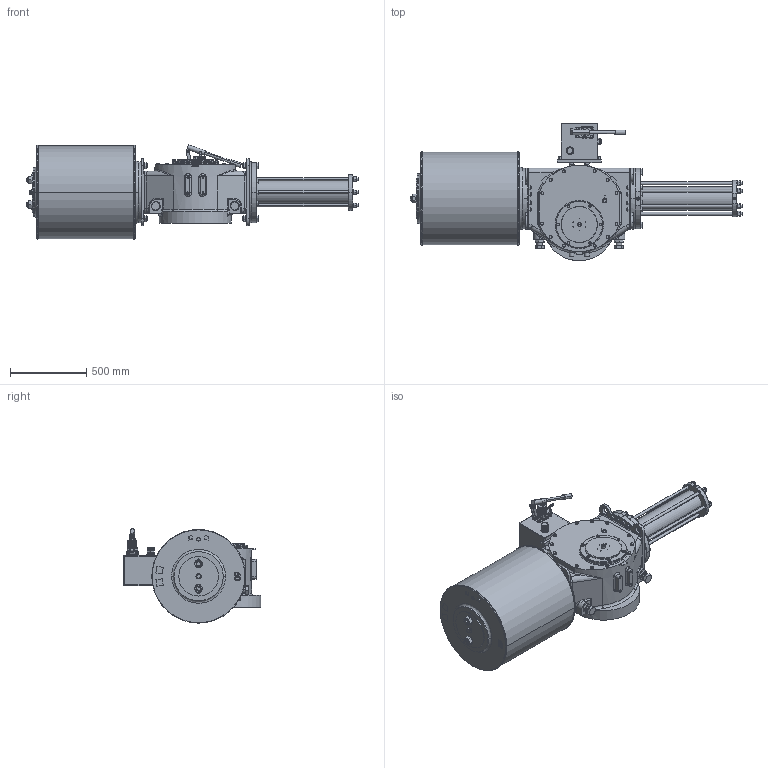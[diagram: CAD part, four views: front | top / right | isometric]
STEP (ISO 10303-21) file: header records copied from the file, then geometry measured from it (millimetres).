
FILE_DESCRIPTION (( 'STEP AP203' ), '1' );
FILE_NAME ('VTS6-600-MH.STEP', '2023-01-01T10:03:53', ( '' ), ( '' ), 'SwSTEP 2.0', 'SolidWorks 2020', '' );
FILE_SCHEMA (( 'CONFIG_CONTROL_DESIGN' ));
Length unit declared in the file: millimetre
Products named in the file (1): VTS6-600-MH
Bounding box: 2183 x 903.5 x 619.77 mm (x, y, z)
Volume: 331197094.5 mm3; surface area: 6122121.6 mm2
Topology: 77 solids, 79 shells, 3238 faces, 7993 edges, 5075 vertices
Faces by surface type: plane 1365, cylinder 1020, cone 750, bspline 103
Entity records: 111964 total; most frequent: CARTESIAN_POINT 35769, DIRECTION 15916, ORIENTED_EDGE 15870, EDGE_CURVE 7935, AXIS2_PLACEMENT_3D 6290, VERTEX_POINT 5075, EDGE_LOOP 3692, VECTOR 3336
